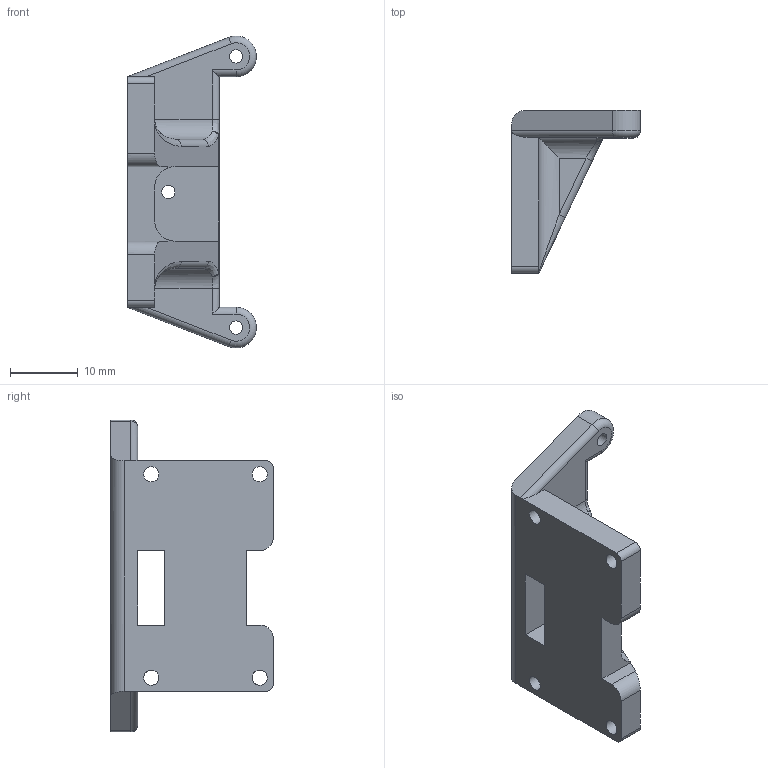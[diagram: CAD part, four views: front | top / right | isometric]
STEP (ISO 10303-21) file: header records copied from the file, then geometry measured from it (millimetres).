
FILE_DESCRIPTION(/* description */ (''),/* implementation_level */ '2;1');
FILE_NAME(/* name */ 'motor stand 1 v10.step',/* time_stamp */ '2025-07-16T17:44:25+08:00',/* author */ (''),/* organization */ (''),/* preprocessor_version */ 'ST-DEVELOPER v20.1',/* originating_system */ 'Autodesk Translation Framework v14.10.0.0',/* authorisation */ '');
FILE_SCHEMA (('AUTOMOTIVE_DESIGN { 1 0 10303 214 3 1 1 }'));
Length unit declared in the file: millimetre
Products named in the file (1): motor stand 1
Bounding box: 18.99 x 24 x 46 mm (x, y, z)
Volume: 5463.3 mm3; surface area: 3451.5 mm2
Topology: 1 solids, 1 shells, 66 faces, 179 edges, 112 vertices
Faces by surface type: cylinder 29, plane 27, bspline 6, sphere 2, torus 2
Full cylindrical faces by diameter (mm): 1.95 x3, 2.25 x4
Entity records: 2366 total; most frequent: CARTESIAN_POINT 620, DIRECTION 361, ORIENTED_EDGE 358, EDGE_CURVE 179, AXIS2_PLACEMENT_3D 131, VERTEX_POINT 112, LINE 99, VECTOR 99
